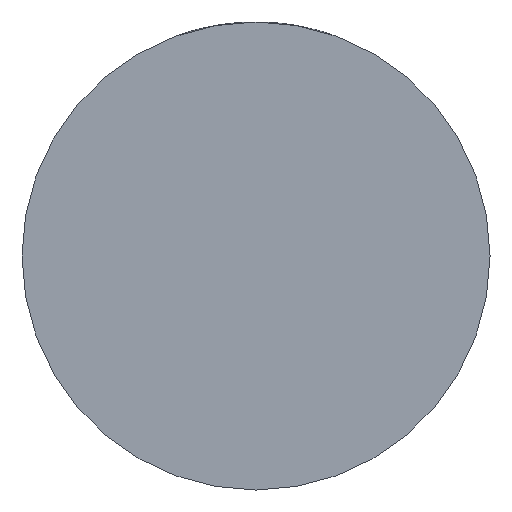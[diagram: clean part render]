
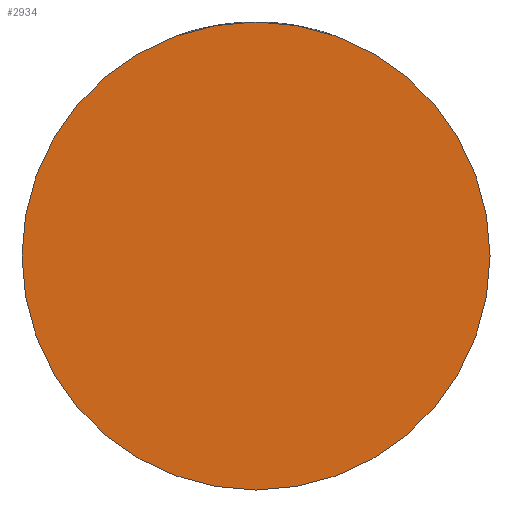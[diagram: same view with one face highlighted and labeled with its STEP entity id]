
A CAD part, front view. The second image highlights one B-rep face of the part: STEP entity #2934.
In plain terms, the highlighted planar face has unit normal (0, -1, 0).
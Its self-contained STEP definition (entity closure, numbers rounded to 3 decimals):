
#189 = FACE_OUTER_BOUND ( 'NONE', #3827, .T. ) ;
#297 = CARTESIAN_POINT ( 'NONE',  ( 0., -22., 0. ) ) ;
#434 = ORIENTED_EDGE ( 'NONE', *, *, #2815, .T. ) ;
#516 = DIRECTION ( 'NONE',  ( 0., -1., 0. ) ) ;
#891 = CARTESIAN_POINT ( 'NONE',  ( 26.5, -22., 0. ) ) ;
#900 = EDGE_CURVE ( 'NONE', #1186, #1144, #1888, .T. ) ;
#1008 = AXIS2_PLACEMENT_3D ( 'NONE', #297, #1712, #2277 ) ;
#1144 = VERTEX_POINT ( 'NONE', #1455 ) ;
#1186 = VERTEX_POINT ( 'NONE', #891 ) ;
#1206 = CARTESIAN_POINT ( 'NONE',  ( 0., -22., 0. ) ) ;
#1263 = DIRECTION ( 'NONE',  ( 0., -1., 0. ) ) ;
#1455 = CARTESIAN_POINT ( 'NONE',  ( -26.5, -22., 0. ) ) ;
#1545 = CARTESIAN_POINT ( 'NONE',  ( 0., -22., 0. ) ) ;
#1712 = DIRECTION ( 'NONE',  ( 0., -1., 0. ) ) ;
#1767 = ORIENTED_EDGE ( 'NONE', *, *, #900, .T. ) ;
#1888 = CIRCLE ( 'NONE', #4337, 26.5 ) ;
#2277 = DIRECTION ( 'NONE',  ( 1., 0., 0. ) ) ;
#2815 = EDGE_CURVE ( 'NONE', #1144, #1186, #3813, .T. ) ;
#2869 = PLANE ( 'NONE',  #4099 ) ;
#2882 = DIRECTION ( 'NONE',  ( 1., 0., 0. ) ) ;
#2934 = ADVANCED_FACE ( 'NONE', ( #189 ), #2869, .T. ) ;
#3230 = DIRECTION ( 'NONE',  ( 1., 0., 0. ) ) ;
#3813 = CIRCLE ( 'NONE', #1008, 26.5 ) ;
#3827 = EDGE_LOOP ( 'NONE', ( #434, #1767 ) ) ;
#4099 = AXIS2_PLACEMENT_3D ( 'NONE', #1206, #516, #3230 ) ;
#4337 = AXIS2_PLACEMENT_3D ( 'NONE', #1545, #1263, #2882 ) ;
